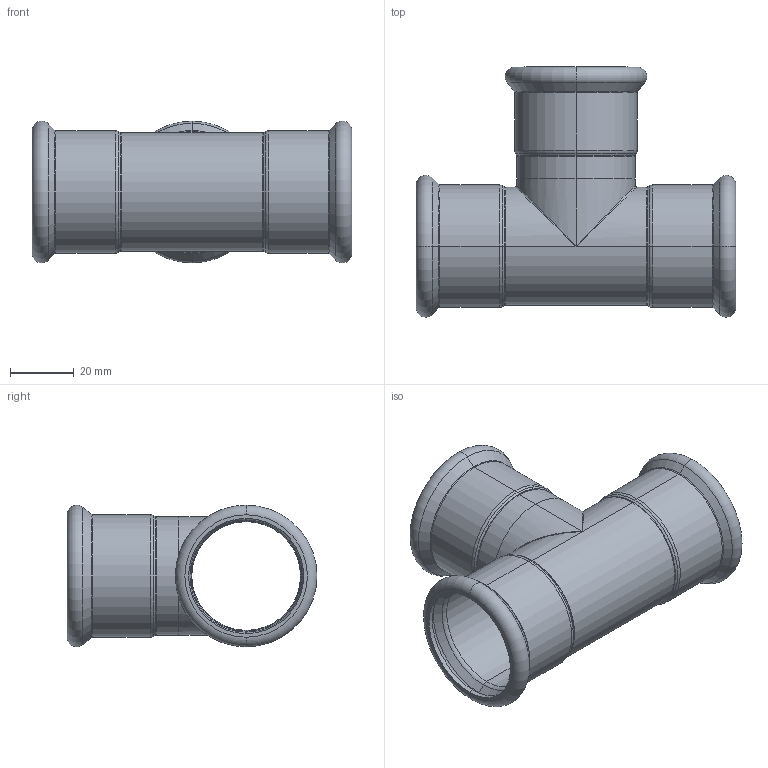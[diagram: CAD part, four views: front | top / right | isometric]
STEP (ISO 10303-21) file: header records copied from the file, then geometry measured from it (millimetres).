
FILE_DESCRIPTION (( 'STEP AP203' ), '1' );
FILE_NAME ('GDA5185.STEP', '2019-01-14T01:51:32', ( '' ), ( '' ), 'SwSTEP 2.0', 'SolidWorks 2015', '' );
FILE_SCHEMA (( 'CONFIG_CONTROL_DESIGN' ));
Length unit declared in the file: millimetre
Products named in the file (3): T-ｉ-01-35; GDA5185; T(R)-¢ñ-35¡Á35''
Assembly tree (2 placements, depth 2):
  GDA5185
    T(R)-¢ñ-35¡Á35''
    T-ｉ-01-35
Bounding box: 100 x 78.15 x 44.3 mm (x, y, z)
Volume: 24765.9 mm3; surface area: 33867 mm2
Topology: 2 solids, 2 shells, 115 faces, 235 edges, 120 vertices
Faces by surface type: torus 48, cylinder 32, cone 24, plane 8, bspline 3
Entity records: 3551 total; most frequent: CARTESIAN_POINT 793, DIRECTION 620, ORIENTED_EDGE 458, AXIS2_PLACEMENT_3D 281, EDGE_CURVE 229, CIRCLE 164, EDGE_LOOP 123, VERTEX_POINT 120
